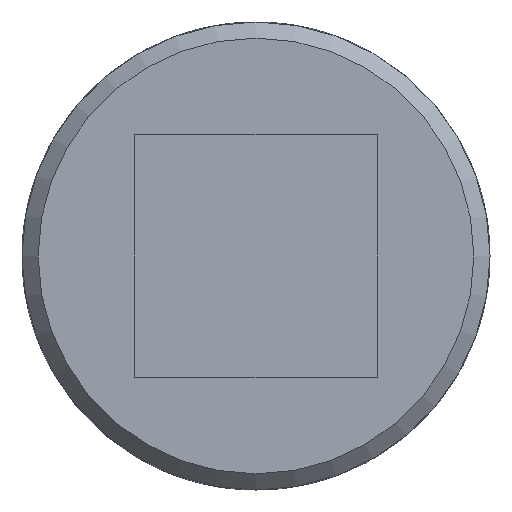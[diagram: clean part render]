
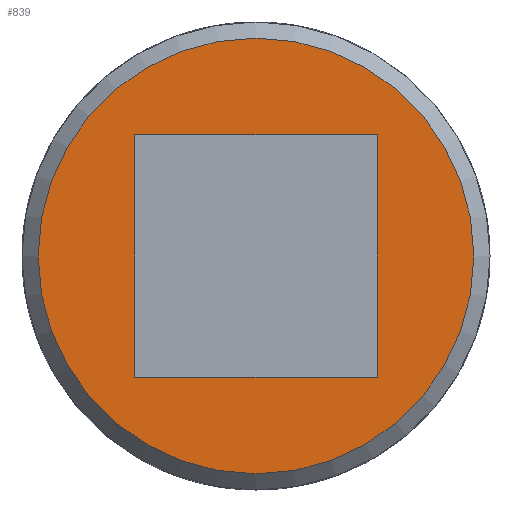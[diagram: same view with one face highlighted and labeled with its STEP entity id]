
A CAD part, front view. The second image highlights one B-rep face of the part: STEP entity #839.
In plain terms, the highlighted planar face has unit normal (0, -1, 0).
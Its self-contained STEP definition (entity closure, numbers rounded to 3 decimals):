
#94=LINE('',#1249,#134);
#98=LINE('',#1272,#138);
#104=LINE('',#1310,#144);
#107=LINE('',#1330,#147);
#134=VECTOR('',#1026,30.);
#138=VECTOR('',#1034,30.);
#144=VECTOR('',#1042,30.);
#147=VECTOR('',#1049,30.);
#174=PLANE('',#913);
#199=FACE_BOUND('',#299,.T.);
#234=FACE_OUTER_BOUND('',#298,.T.);
#298=EDGE_LOOP('',(#679));
#299=EDGE_LOOP('',(#680,#681,#682,#683));
#348=CIRCLE('',#911,27.);
#386=VERTEX_POINT('',#1246);
#387=VERTEX_POINT('',#1248);
#393=VERTEX_POINT('',#1271);
#402=VERTEX_POINT('',#1308);
#409=VERTEX_POINT('',#1375);
#475=EDGE_CURVE('',#387,#386,#94,.T.);
#482=EDGE_CURVE('',#393,#387,#98,.T.);
#492=EDGE_CURVE('',#386,#402,#104,.T.);
#498=EDGE_CURVE('',#402,#393,#107,.T.);
#509=EDGE_CURVE('',#409,#409,#348,.T.);
#679=ORIENTED_EDGE('',*,*,#509,.F.);
#680=ORIENTED_EDGE('',*,*,#475,.T.);
#681=ORIENTED_EDGE('',*,*,#492,.T.);
#682=ORIENTED_EDGE('',*,*,#498,.T.);
#683=ORIENTED_EDGE('',*,*,#482,.T.);
#839=ADVANCED_FACE('',(#234,#199),#174,.F.);
#911=AXIS2_PLACEMENT_3D('',#1376,#1078,#1079);
#913=AXIS2_PLACEMENT_3D('',#1584,#1086,#1087);
#1026=DIRECTION('',(0.,0.,-1.));
#1034=DIRECTION('',(1.,0.,0.));
#1042=DIRECTION('',(-1.,0.,0.));
#1049=DIRECTION('',(0.,0.,1.));
#1078=DIRECTION('center_axis',(0.,1.,0.));
#1079=DIRECTION('ref_axis',(1.,0.,0.));
#1086=DIRECTION('center_axis',(0.,1.,0.));
#1087=DIRECTION('ref_axis',(0.,0.,1.));
#1246=CARTESIAN_POINT('',(15.,-75.5,-15.));
#1248=CARTESIAN_POINT('',(15.,-75.5,15.));
#1249=CARTESIAN_POINT('',(15.,-75.5,7.5));
#1271=CARTESIAN_POINT('',(-15.,-75.5,15.));
#1272=CARTESIAN_POINT('',(-7.5,-75.5,15.));
#1308=CARTESIAN_POINT('',(-15.,-75.5,-15.));
#1310=CARTESIAN_POINT('',(7.5,-75.5,-15.));
#1330=CARTESIAN_POINT('',(-15.,-75.5,-7.5));
#1375=CARTESIAN_POINT('',(-27.,-75.5,0.));
#1376=CARTESIAN_POINT('Origin',(0.,-75.5,0.));
#1584=CARTESIAN_POINT('Origin',(0.,-75.5,0.));
